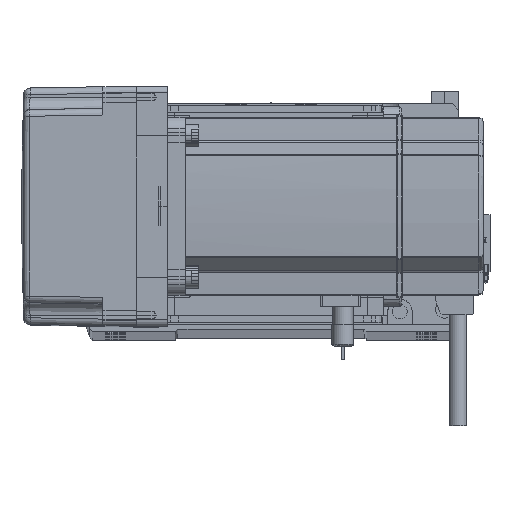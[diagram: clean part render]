
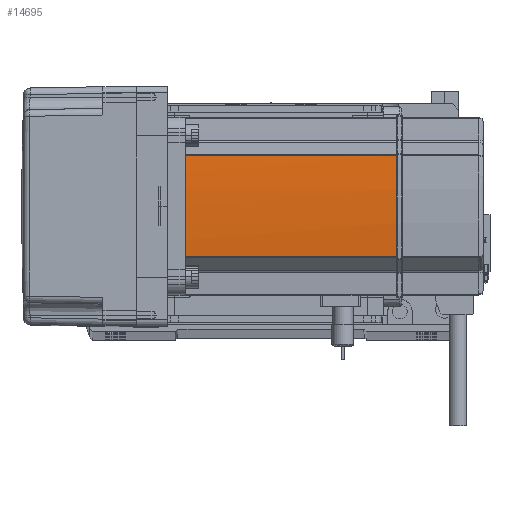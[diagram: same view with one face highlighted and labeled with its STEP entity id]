
A CAD part, top view. The second image highlights one B-rep face of the part: STEP entity #14695.
In plain terms, the highlighted cylindrical face has radius 270 mm (diameter 540 mm), a partial arc.
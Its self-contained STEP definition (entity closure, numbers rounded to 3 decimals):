
#92 = ORIENTED_EDGE ( 'NONE', *, *, #34917, .T. ) ;
#695 = ORIENTED_EDGE ( 'NONE', *, *, #16460, .T. ) ;
#1646 = CARTESIAN_POINT ( 'NONE',  ( 39.042, 22.724, 134. ) ) ;
#2431 = VERTEX_POINT ( 'NONE', #55624 ) ;
#3454 = AXIS2_PLACEMENT_3D ( 'NONE', #15067, #5483, #53719 ) ;
#5483 = DIRECTION ( 'NONE',  ( 0., 0., -1. ) ) ;
#5842 = VERTEX_POINT ( 'NONE', #39596 ) ;
#8005 = CARTESIAN_POINT ( 'NONE',  ( 39.042, -22.724, 58. ) ) ;
#8784 = EDGE_CURVE ( 'NONE', #24977, #2431, #53546, .T. ) ;
#8871 = EDGE_CURVE ( 'NONE', #19254, #5842, #29923, .T. ) ;
#11738 = AXIS2_PLACEMENT_3D ( 'NONE', #37052, #61186, #41734 ) ;
#12629 = VERTEX_POINT ( 'NONE', #1646 ) ;
#12788 = VECTOR ( 'NONE', #16600, 1000. ) ;
#14695 = ADVANCED_FACE ( 'NONE', ( #47742 ), #51566, .T. ) ;
#14818 = EDGE_CURVE ( 'NONE', #24977, #57368, #16824, .T. ) ;
#15067 = CARTESIAN_POINT ( 'NONE',  ( -230., 0., 58. ) ) ;
#16338 = CIRCLE ( 'NONE', #54644, 270. ) ;
#16460 = EDGE_CURVE ( 'NONE', #12629, #2431, #16338, .T. ) ;
#16600 = DIRECTION ( 'NONE',  ( 0., 0., 1. ) ) ;
#16824 = CIRCLE ( 'NONE', #29445, 270. ) ;
#19254 = VERTEX_POINT ( 'NONE', #60898 ) ;
#19971 = VECTOR ( 'NONE', #27821, 1000. ) ;
#20139 = EDGE_CURVE ( 'NONE', #19254, #12629, #51314, .T. ) ;
#20513 = CARTESIAN_POINT ( 'NONE',  ( 39.042, -22.724, 134. ) ) ;
#20547 = DIRECTION ( 'NONE',  ( 0., 0., -1. ) ) ;
#20685 = EDGE_LOOP ( 'NONE', ( #92, #49719, #35219, #695, #38494, #52075 ) ) ;
#23010 = DIRECTION ( 'NONE',  ( -1., 0., 0. ) ) ;
#24977 = VERTEX_POINT ( 'NONE', #39262 ) ;
#27821 = DIRECTION ( 'NONE',  ( 0., 0., -1. ) ) ;
#29445 = AXIS2_PLACEMENT_3D ( 'NONE', #34880, #20547, #54345 ) ;
#29923 = CIRCLE ( 'NONE', #11738, 270. ) ;
#31349 = CARTESIAN_POINT ( 'NONE',  ( 40., 0.127, 134. ) ) ;
#34880 = CARTESIAN_POINT ( 'NONE',  ( -230., 0., 134. ) ) ;
#34917 = EDGE_CURVE ( 'NONE', #57368, #5842, #58552, .T. ) ;
#35219 = ORIENTED_EDGE ( 'NONE', *, *, #20139, .T. ) ;
#36213 = CARTESIAN_POINT ( 'NONE',  ( 39.042, 22.724, 58. ) ) ;
#37052 = CARTESIAN_POINT ( 'NONE',  ( -230., 0., 39. ) ) ;
#38494 = ORIENTED_EDGE ( 'NONE', *, *, #8784, .F. ) ;
#39262 = CARTESIAN_POINT ( 'NONE',  ( 40., -0.127, 134. ) ) ;
#39596 = CARTESIAN_POINT ( 'NONE',  ( 39.042, -22.724, 39. ) ) ;
#40263 = CARTESIAN_POINT ( 'NONE',  ( 40., 0.042, 134. ) ) ;
#41734 = DIRECTION ( 'NONE',  ( -1., 0., 0. ) ) ;
#47076 = CARTESIAN_POINT ( 'NONE',  ( -230., 0., 134. ) ) ;
#47742 = FACE_OUTER_BOUND ( 'NONE', #20685, .T. ) ;
#49719 = ORIENTED_EDGE ( 'NONE', *, *, #8871, .F. ) ;
#51314 = LINE ( 'NONE', #36213, #12788 ) ;
#51566 = CYLINDRICAL_SURFACE ( 'NONE', #3454, 270. ) ;
#52075 = ORIENTED_EDGE ( 'NONE', *, *, #14818, .T. ) ;
#53546 = B_SPLINE_CURVE_WITH_KNOTS ( 'NONE', 3,
 ( #59937, #60354, #40263, #31349 ),
 .UNSPECIFIED., .F., .F.,
 ( 4, 4 ),
 ( 0., 1. ),
 .UNSPECIFIED. ) ;
#53719 = DIRECTION ( 'NONE',  ( -1., 0., 0. ) ) ;
#54345 = DIRECTION ( 'NONE',  ( -1., 0., 0. ) ) ;
#54644 = AXIS2_PLACEMENT_3D ( 'NONE', #47076, #62083, #23010 ) ;
#55624 = CARTESIAN_POINT ( 'NONE',  ( 40., 0.127, 134. ) ) ;
#57368 = VERTEX_POINT ( 'NONE', #20513 ) ;
#58552 = LINE ( 'NONE', #8005, #19971 ) ;
#59937 = CARTESIAN_POINT ( 'NONE',  ( 40., -0.127, 134. ) ) ;
#60354 = CARTESIAN_POINT ( 'NONE',  ( 40., -0.042, 134. ) ) ;
#60898 = CARTESIAN_POINT ( 'NONE',  ( 39.042, 22.724, 39. ) ) ;
#61186 = DIRECTION ( 'NONE',  ( 0., 0., -1. ) ) ;
#62083 = DIRECTION ( 'NONE',  ( 0., 0., -1. ) ) ;
